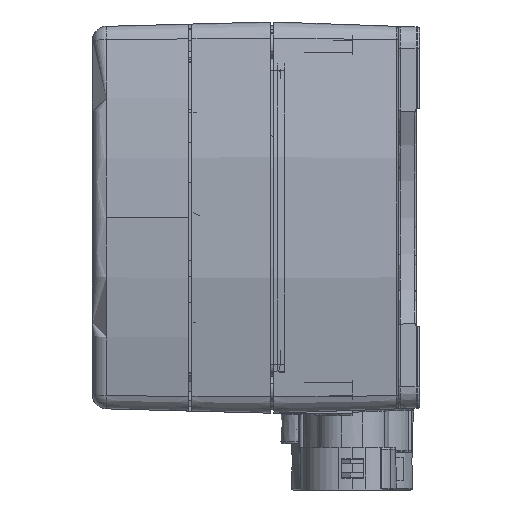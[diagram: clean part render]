
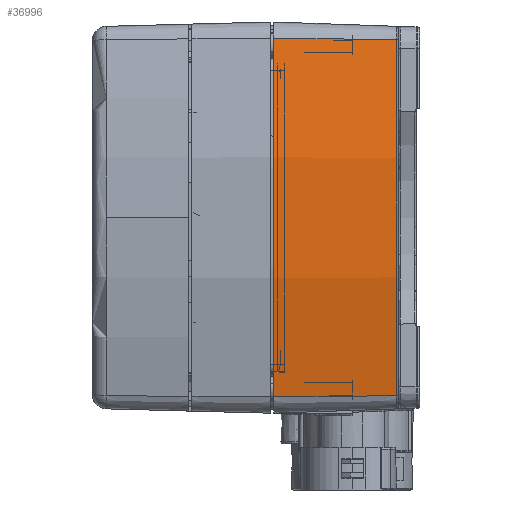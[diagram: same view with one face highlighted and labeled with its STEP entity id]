
A CAD part, left-side view. The second image highlights one B-rep face of the part: STEP entity #36996.
In plain terms, the highlighted conical face has half-angle 2 degrees and reference radius 219.571 mm.
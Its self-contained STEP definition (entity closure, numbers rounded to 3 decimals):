
#1805 = ORIENTED_EDGE ( 'NONE', *, *, #29846, .F. ) ;
#2056 = DIRECTION ( 'NONE',  ( 0., 0., -1. ) ) ;
#3398 = DIRECTION ( 'NONE',  ( 0., 1., 0. ) ) ;
#3686 = CARTESIAN_POINT ( 'NONE',  ( 47.571, -34.483, 0. ) ) ;
#16099 = CARTESIAN_POINT ( 'NONE',  ( -166.143, 0., -50.377 ) ) ;
#17340 = EDGE_LOOP ( 'NONE', ( #1805, #33116, #36023, #52320 ) ) ;
#17399 = AXIS2_PLACEMENT_3D ( 'NONE', #53167, #25711, #2056 ) ;
#17571 = VERTEX_POINT ( 'NONE', #41403 ) ;
#19375 = CIRCLE ( 'NONE', #17399, 219.571 ) ;
#22291 = LINE ( 'NONE', #27886, #48663 ) ;
#24329 = CIRCLE ( 'NONE', #42243, 218.367 ) ;
#25163 = LINE ( 'NONE', #16099, #56517 ) ;
#25711 = DIRECTION ( 'NONE',  ( 0., 1., 0. ) ) ;
#27117 = CARTESIAN_POINT ( 'NONE',  ( 47.571, 0., 0. ) ) ;
#27886 = CARTESIAN_POINT ( 'NONE',  ( -166.143, 0., 50.377 ) ) ;
#29846 = EDGE_CURVE ( 'NONE', #30273, #37173, #25163, .T. ) ;
#30273 = VERTEX_POINT ( 'NONE', #54893 ) ;
#31766 = DIRECTION ( 'NONE',  ( 0., 1., 0. ) ) ;
#32985 = EDGE_CURVE ( 'NONE', #50418, #17571, #22291, .T. ) ;
#32993 = CONICAL_SURFACE ( 'NONE', #57934, 219.571, 0.035 ) ;
#33116 = ORIENTED_EDGE ( 'NONE', *, *, #55325, .T. ) ;
#36023 = ORIENTED_EDGE ( 'NONE', *, *, #32985, .T. ) ;
#36715 = DIRECTION ( 'NONE',  ( 0., 0., -1. ) ) ;
#36996 = ADVANCED_FACE ( 'NONE', ( #45796 ), #32993, .T. ) ;
#37173 = VERTEX_POINT ( 'NONE', #39168 ) ;
#37222 = DIRECTION ( 'NONE',  ( -0.034, 0.999, 0.008 ) ) ;
#39168 = CARTESIAN_POINT ( 'NONE',  ( -166.143, 0., -50.377 ) ) ;
#40407 = EDGE_CURVE ( 'NONE', #37173, #17571, #19375, .T. ) ;
#41403 = CARTESIAN_POINT ( 'NONE',  ( -166.143, 0., 50.377 ) ) ;
#41733 = DIRECTION ( 'NONE',  ( 0., 0., -1. ) ) ;
#42243 = AXIS2_PLACEMENT_3D ( 'NONE', #3686, #3398, #36715 ) ;
#44434 = DIRECTION ( 'NONE',  ( -0.034, 0.999, -0.008 ) ) ;
#45796 = FACE_OUTER_BOUND ( 'NONE', #17340, .T. ) ;
#48663 = VECTOR ( 'NONE', #37222, 1000. ) ;
#50418 = VERTEX_POINT ( 'NONE', #58912 ) ;
#52320 = ORIENTED_EDGE ( 'NONE', *, *, #40407, .F. ) ;
#53167 = CARTESIAN_POINT ( 'NONE',  ( 47.571, 0., 0. ) ) ;
#54893 = CARTESIAN_POINT ( 'NONE',  ( -164.971, -34.483, -50.1 ) ) ;
#55325 = EDGE_CURVE ( 'NONE', #30273, #50418, #24329, .T. ) ;
#56517 = VECTOR ( 'NONE', #44434, 1000. ) ;
#57934 = AXIS2_PLACEMENT_3D ( 'NONE', #27117, #31766, #41733 ) ;
#58912 = CARTESIAN_POINT ( 'NONE',  ( -164.971, -34.483, 50.1 ) ) ;
